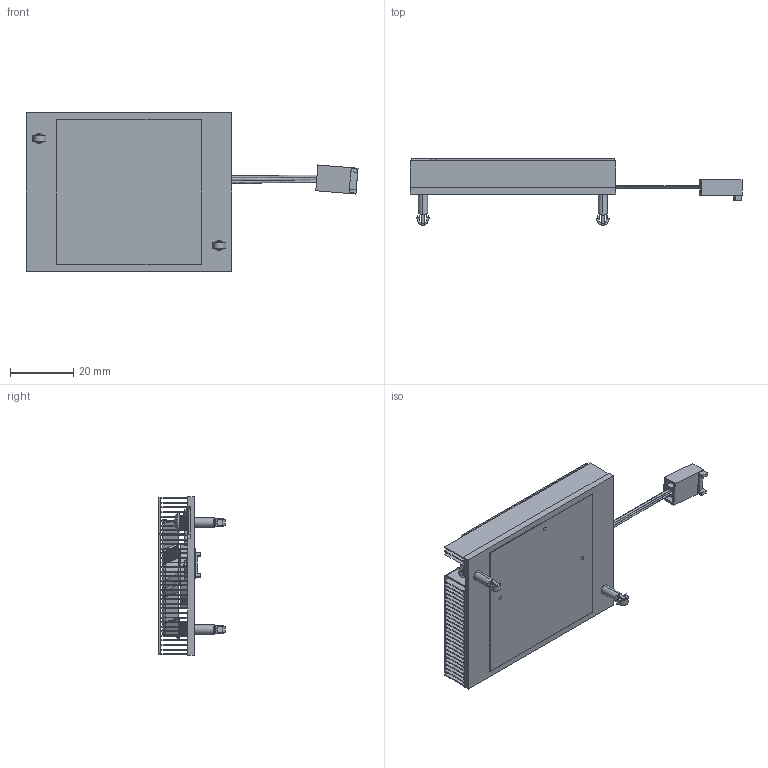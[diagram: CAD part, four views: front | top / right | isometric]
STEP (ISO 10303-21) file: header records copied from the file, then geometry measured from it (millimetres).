
FILE_DESCRIPTION (( 'STEP AP214' ), '1' );
FILE_NAME ('WV12L_B.STEP', '2024-08-29T04:12:58', ( '' ), ( '' ), 'SwSTEP 2.0', 'SolidWorks 2022', '' );
FILE_SCHEMA (( 'AUTOMOTIVE_DESIGN' ));
Length unit declared in the file: millimetre
Products named in the file (12): PCI4019; JPY0400812HB3A01(CWY)-X(2355); HS8249; 91800A075_91800A075; HS8143 (PUSH PIN)^HS8143; 22-01-3037; WV12L_B; PB0021-01; HS8143; RAD0001058; HS8416; HS8143 (SPRING-COMPRESSED)^HS8143_COMPRESSED
Assembly tree (14 placements, depth 3):
  WV12L_B
    PCI4019
    HS8416
      JPY0400812HB3A01(CWY)-X(2355)
      22-01-3037
    HS8143  x2
      HS8143 (PUSH PIN)^HS8143
      HS8143 (SPRING-COMPRESSED)^HS8143_COMPRESSED
    91800A075_91800A075  x3
    HS8249
    PB0021-01
    RAD0001058
Bounding box: 104.85 x 21 x 50 mm (x, y, z)
Volume: 12219.7 mm3; surface area: 41365.4 mm2
Topology: 45 solids, 45 shells, 1651 faces, 4416 edges, 2894 vertices
Faces by surface type: plane 902, bspline 417, cylinder 250, torus 40, cone 30, sphere 12
Entity records: 73095 total; most frequent: CARTESIAN_POINT 32801, ORIENTED_EDGE 8016, DIRECTION 5421, EDGE_CURVE 4008, VERTEX_POINT 2626, LINE 2429, VECTOR 2429, EDGE_LOOP 1588
